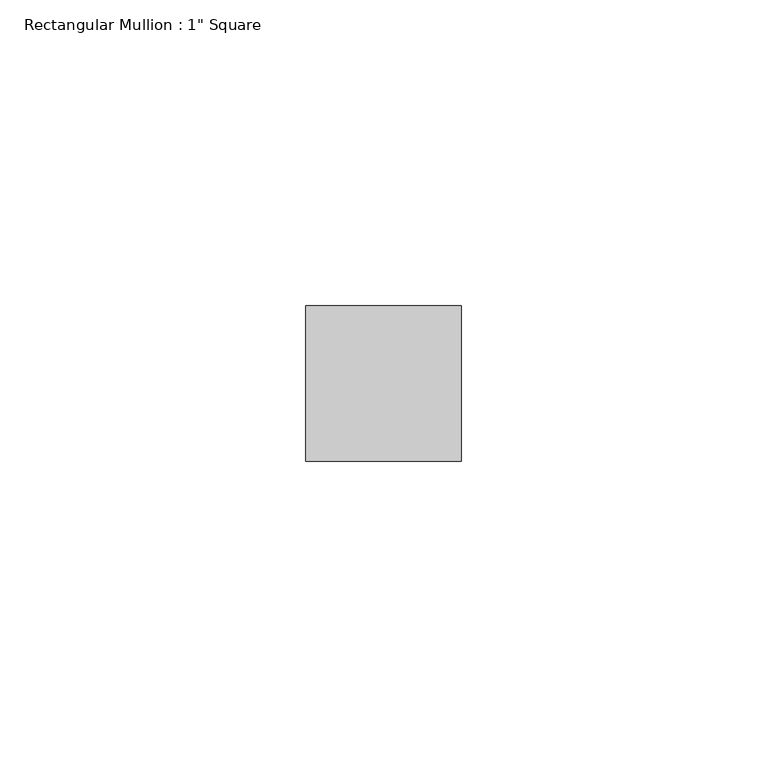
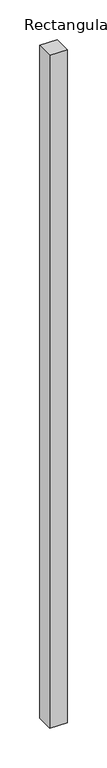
"""IFC4 building model written with IfcOpenShell, lengths in millimetres: member geometry."""

import ifcopenshell
import ifcopenshell.guid

model = None  # the IFC model being written
_history = None  # IfcOwnerHistory: only IFC2X3 demands one
_inside = {}  # id of a spatial element -> (the spatial element, [elements in it])
_under = {}  # id of a project, library or spatial element -> (it, [spatial elements below it])
_declared = {}  # id of a project -> (the project, [libraries it declares])
_typed = {}  # id of a type object -> (the type object, [elements of that type])
_made_of = {}  # id of a material, layer set ... -> (it, [elements and type objects made of it])


def new_model(schema):
    """Start an empty IFC model of exactly this schema.

    Asked for "IFC4X3", IfcOpenShell would pick the latest addendum, in which some entities
    have other attributes; the version numbers below select the first issue.
    IFC2X3 requires an IfcOwnerHistory on every rooted entity: one is made here for all.
    """
    global model, _history
    if schema == "IFC4X3":
        model = ifcopenshell.file(schema_version=(4, 3, 0, 0))
    else:
        model = ifcopenshell.file(schema=schema)
    _inside.clear()
    _under.clear()
    _declared.clear()
    _typed.clear()
    _made_of.clear()
    _history = None
    if model.schema == "IFC2X3":
        org = make("IfcOrganization", Name="unknown")
        user = make(
            "IfcPersonAndOrganization",
            ThePerson=make("IfcPerson", FamilyName="unknown"),
            TheOrganization=org,
        )
        app = make(
            "IfcApplication",
            ApplicationDeveloper=org,
            Version="unknown",
            ApplicationFullName="unknown",
            ApplicationIdentifier="unknown",
        )
        _history = make(
            "IfcOwnerHistory",
            OwningUser=user,
            OwningApplication=app,
            ChangeAction="ADDED",
            CreationDate=0,
        )
    return model


def make(cls, **values):
    """One entity of the class cls with the attributes given. An attribute that is None is left unset."""
    return model.create_entity(
        cls, **{name: value for name, value in values.items() if value is not None}
    )


def rooted(cls, **values):
    """An entity with a GlobalId (a new one), such as an element, a storey or a relation."""
    return make(cls, GlobalId=ifcopenshell.guid.new(), OwnerHistory=_history, **values)


def si_unit(unit_type, name, prefix=None):
    """IfcSIUnit, for example si_unit("LENGTHUNIT", "METRE", prefix="MILLI")."""
    return make("IfcSIUnit", UnitType=unit_type, Prefix=prefix, Name=name)


def assignment(units):
    """IfcUnitAssignment: the units of a project."""
    return None if units is None else make("IfcUnitAssignment", Units=units)


def point(xyz):
    """IfcCartesianPoint."""
    return None if xyz is None else make("IfcCartesianPoint", Coordinates=xyz)


def direction(xyz):
    """IfcDirection."""
    return None if xyz is None else make("IfcDirection", DirectionRatios=xyz)


def frame(location, z_axis=None, x_axis=None):
    """IfcAxis2Placement3D, a coordinate frame: its origin and axes. An axis left out is left unset."""
    return make(
        "IfcAxis2Placement3D",
        Location=point(location),
        Axis=direction(z_axis),
        RefDirection=direction(x_axis),
    )


def origin():
    """The frame at (0, 0, 0) with its axes left unset."""
    return frame((0.0, 0.0, 0.0))


def place(relative_to, where):
    """IfcLocalPlacement: puts the frame where relative to a parent placement (None: the world)."""
    return make(
        "IfcLocalPlacement", PlacementRelTo=relative_to, RelativePlacement=where
    )


def context(
    kind, dimensions, precision=None, world=None, true_north=None, identifier=None
):
    """IfcGeometricRepresentationContext, for example the 3D "Model" context."""
    return make(
        "IfcGeometricRepresentationContext",
        ContextIdentifier=identifier,
        ContextType=kind,
        CoordinateSpaceDimension=dimensions,
        Precision=precision,
        WorldCoordinateSystem=world,
        TrueNorth=true_north,
    )


def project(units=None, contexts=None):
    """IfcProject with its units and contexts."""
    return rooted(
        "IfcProject",
        Name="project",
        RepresentationContexts=contexts,
        UnitsInContext=assignment(units),
    )


def spatial(cls, under=None, at=None, **own):
    """A site, building, storey or space (cls), placed at a placement, below another one or the project."""
    s = rooted(cls, ObjectPlacement=at, **own)
    if under is not None:
        _under.setdefault(under.id(), (under, []))[1].append(s)
    return s


def polyline(points):
    """IfcPolyline through the points."""
    return make("IfcPolyline", Points=[point(p) for p in points])


def outline(outer, holes=None, kind="AREA"):
    """IfcArbitraryClosedProfileDef: a profile drawn as a closed curve; with holes, ...WithVoids."""
    if holes is None:
        return make("IfcArbitraryClosedProfileDef", ProfileType=kind, OuterCurve=outer)
    return make(
        "IfcArbitraryProfileDefWithVoids",
        ProfileType=kind,
        OuterCurve=outer,
        InnerCurves=holes,
    )


def extrude(swept, where, along, depth):
    """IfcExtrudedAreaSolid: the profile swept, set in the frame where, extruded along a direction by depth."""
    return make(
        "IfcExtrudedAreaSolid",
        SweptArea=swept,
        Position=where,
        ExtrudedDirection=direction(along),
        Depth=depth,
    )


def shape(context_of_items, identifier, shape_type, items):
    """IfcShapeRepresentation: the items that make up one representation, for example the "Body"."""
    return make(
        "IfcShapeRepresentation",
        ContextOfItems=context_of_items,
        RepresentationIdentifier=identifier,
        RepresentationType=shape_type,
        Items=items,
    )


def source(mapping_origin, context_of_items, identifier, shape_type, items):
    """IfcRepresentationMap: a shape defined once, which mapped items show again and again."""
    return make(
        "IfcRepresentationMap",
        MappingOrigin=mapping_origin,
        MappedRepresentation=shape(context_of_items, identifier, shape_type, items),
    )


def transform(
    local_origin,
    x_axis=None,
    y_axis=None,
    z_axis=None,
    scale=None,
    scale2=None,
    scale3=None,
    uniform=True,
):
    """IfcCartesianTransformationOperator3D, or its non-uniform kind. x_axis, y_axis, z_axis: its Axis1, 2, 3."""
    if uniform:
        return make(
            "IfcCartesianTransformationOperator3D",
            Axis1=direction(x_axis),
            Axis2=direction(y_axis),
            LocalOrigin=point(local_origin),
            Scale=scale,
            Axis3=direction(z_axis),
        )
    return make(
        "IfcCartesianTransformationOperator3DnonUniform",
        Axis1=direction(x_axis),
        Axis2=direction(y_axis),
        LocalOrigin=point(local_origin),
        Scale=scale,
        Axis3=direction(z_axis),
        Scale2=scale2,
        Scale3=scale3,
    )


def mapped(mapping_source, mapping_target):
    """IfcMappedItem: shows the shape of a source again, moved by a transform."""
    return make(
        "IfcMappedItem", MappingSource=mapping_source, MappingTarget=mapping_target
    )


def made_of(thing, what):
    """Note that an element or type object is made of a material, layer set ...; save() writes the relation."""
    if what is not None:
        _made_of.setdefault(what.id(), (what, []))[1].append(thing)
    return thing


def element(
    cls,
    number,
    at=None,
    inside=None,
    cuts=None,
    type_object=None,
    material=None,
    context=None,
    identifier="Body",
    shape_type=None,
    held_by="IfcProductDefinitionShape",
    body=None,
    shapes=None,
    **own,
):
    """One element of the class cls, such as IfcWall. Its Tag is "e" and its number.

    at: its placement. inside: the storey or other place that contains it. cuts: it is an
    opening in that element (IfcRelVoidsElement). A single representation is given by context,
    identifier, shape_type and body (its items); several are given by shapes. held_by: the class
    of the entity that holds the representations. save() writes the other relations.
    """
    e = rooted(cls, Tag="e%d" % number, ObjectPlacement=at, **own)
    if body is not None:
        shapes = [shape(context, identifier, shape_type, body)]
    if shapes is not None:
        e.Representation = make(held_by, Representations=shapes)
    if inside is not None:
        _inside.setdefault(inside.id(), (inside, []))[1].append(e)
    if cuts is not None:
        rooted(
            "IfcRelVoidsElement", RelatingBuildingElement=cuts, RelatedOpeningElement=e
        )
    if type_object is not None:
        _typed.setdefault(type_object.id(), (type_object, []))[1].append(e)
    return made_of(e, material)


def aggregate(whole, parts):
    """IfcRelAggregates: a whole, such as a stair, and the parts it consists of."""
    return rooted("IfcRelAggregates", RelatingObject=whole, RelatedObjects=parts)


def save(model, path):
    """Write the relations noted so far, then the file.

    IfcRelAggregates (storeys below a building ...), IfcRelContainedInSpatialStructure (elements
    in a storey), IfcRelDefinesByType, IfcRelAssociatesMaterial and IfcRelDeclares: one each for
    every whole, place, type object, material and project.
    """
    for whole, parts in _under.values():
        aggregate(whole, parts)
    for where, things in _inside.values():
        rooted(
            "IfcRelContainedInSpatialStructure",
            RelatedElements=things,
            RelatingStructure=where,
        )
    for kind, things in _typed.values():
        rooted("IfcRelDefinesByType", RelatedObjects=things, RelatingType=kind)
    for what, things in _made_of.values():
        rooted("IfcRelAssociatesMaterial", RelatedObjects=things, RelatingMaterial=what)
    for by, libraries in _declared.values():
        rooted("IfcRelDeclares", RelatingContext=by, RelatedDefinitions=libraries)
    model.write(path)


def member_f3e77526(model_context):
    return source(origin(), model_context, "Body", "SweptSolid", [
        extrude(outline(polyline([(0.0, 12.7), (0.0, -12.7), (-25.4, -12.7), (-25.4, 12.7), (0.0, 12.7)])), frame((0.0, 0.0, -1037.7901079), z_axis=(0.0, 0.0, 1.0), x_axis=(1.0, 0.0, 0.0)), (0.0, 0.0, 1.0), 1037.7901079),
    ])


if __name__ == "__main__":
    model = new_model("IFC4")
    model_context = context("Model", 3, world=origin())
    ifc_project = project(units=[si_unit("LENGTHUNIT", "METRE", prefix="MILLI")], contexts=[model_context])
    site = spatial("IfcSite", under=ifc_project)
    building = spatial("IfcBuilding", under=site)
    placement = place(None, origin())
    member_shape = member_f3e77526(model_context)
    element("IfcMember", 1, ObjectType="Rectangular Mullion : 1\" Square", at=placement, inside=building, context=model_context, shape_type="MappedRepresentation", body=[
        mapped(member_shape, transform((0.0, 0.0, 0.0), x_axis=(1.0, 0.0, 0.0), y_axis=(0.0, 1.0, 0.0), z_axis=(0.0, 0.0, 1.0))),
    ])
    save(model, "model.ifc")
